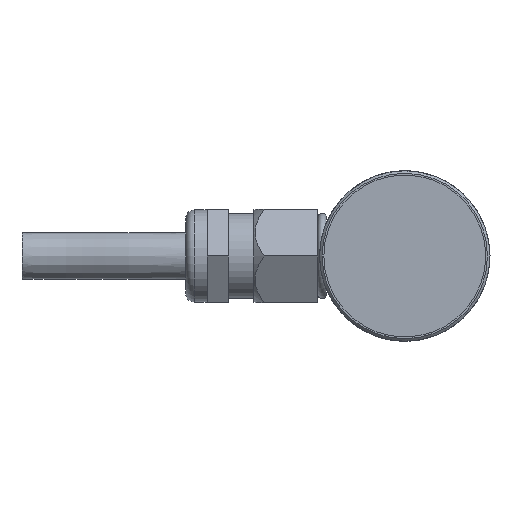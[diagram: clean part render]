
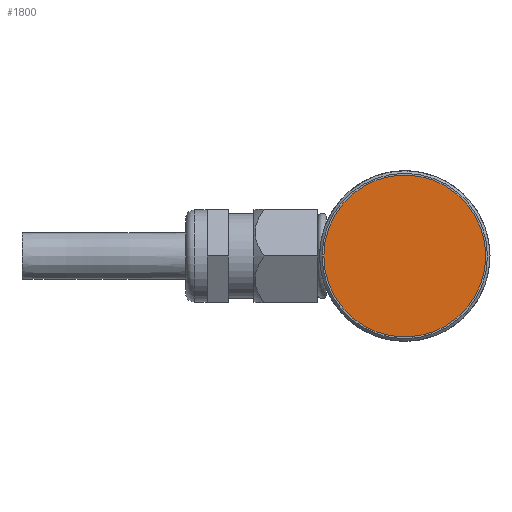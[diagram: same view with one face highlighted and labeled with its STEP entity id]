
A CAD part, left-side view. The second image highlights one B-rep face of the part: STEP entity #1800.
In plain terms, the highlighted planar face has unit normal (-1, 0, 0).
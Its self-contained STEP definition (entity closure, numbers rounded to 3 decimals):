
#825=PLANE('',#1900);
#870=CIRCLE('',#1899,9.5);
#937=VERTEX_POINT('',#2503);
#1090=EDGE_CURVE('',#937,#937,#870,.T.);
#1283=ORIENTED_EDGE('',*,*,#1090,.T.);
#1592=EDGE_LOOP('',(#1283));
#1701=FACE_BOUND('',#1592,.T.);
#1800=ADVANCED_FACE('',(#1701),#825,.F.);
#1899=AXIS2_PLACEMENT_3D('',#2502,#2060,#2061);
#1900=AXIS2_PLACEMENT_3D('',#2504,#2062,$);
#2060=DIRECTION('',(-1.,0.,0.));
#2061=DIRECTION('',(0.,0.,-9.5));
#2062=DIRECTION('',(1.,0.,0.));
#2502=CARTESIAN_POINT('',(-16.,0.,0.));
#2503=CARTESIAN_POINT('',(-16.,0.,-9.5));
#2504=CARTESIAN_POINT('',(-16.,0.,0.));
